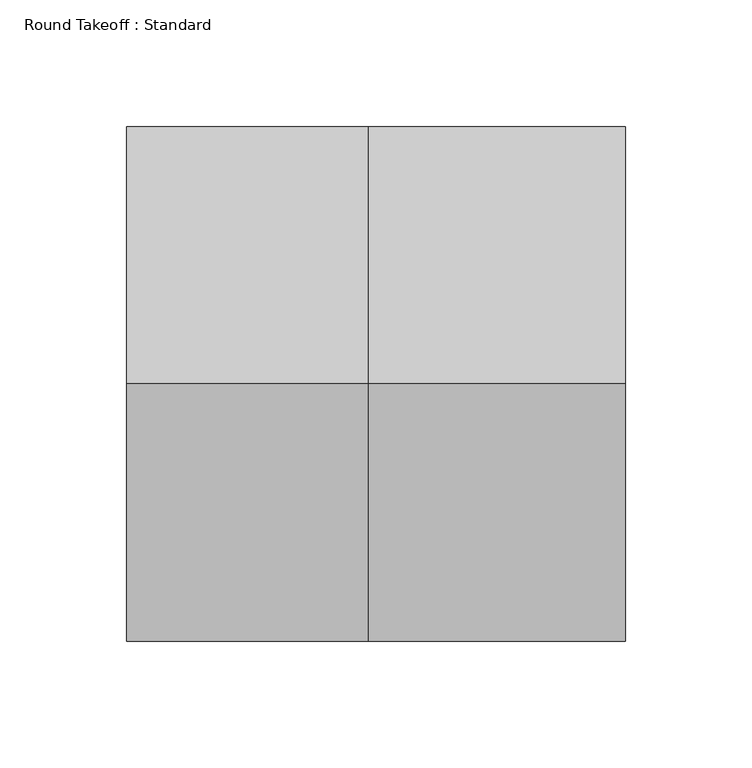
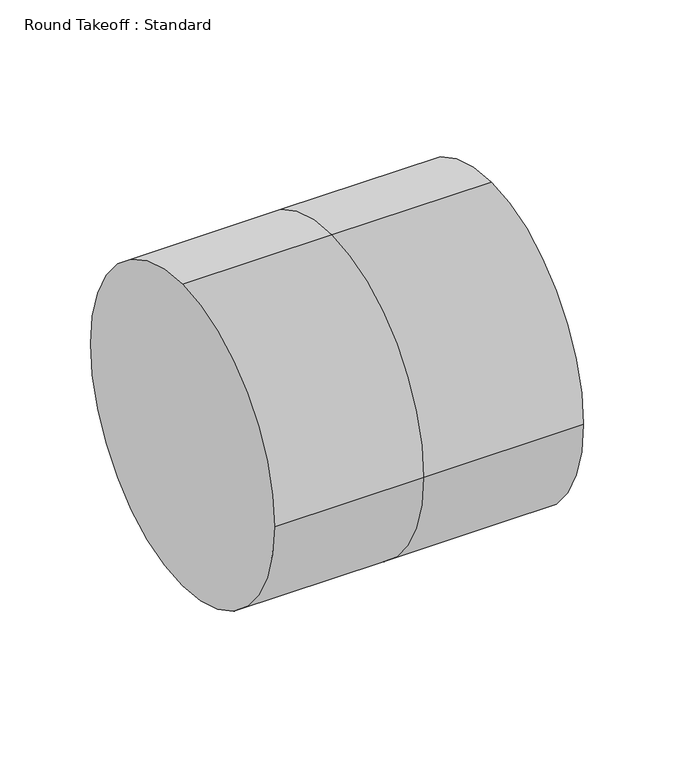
"""IFC4 building model written with IfcOpenShell, lengths in millimetres: duct fitting geometry, Round Takeoff : Standard."""

from ifc_helpers import new_model, si_unit, frame, origin, place, context, project, spatial, circle_curve, source, transform, mapped, element, save
from ifc_brep_helpers import plane_surface, cylinder_surface, advanced_brep


def round_takeoff_standard_aff246af(model_context):
    return source(origin(), model_context, "Body", "AdvancedBrep", [
        advanced_brep(
        [(101.6, 0.0, 101.6), (101.6, -101.6, 0.0), (101.6, 0.0, -101.6), (101.6, 101.6, 0.0), (0.0, 0.0, 101.6), (0.0, -101.6, 0.0), (0.0, 0.0, -101.6), (0.0, 101.6, 0.0), (-95.504, 0.0, 101.6), (-95.504, 101.6, 0.0), (-95.504, 0.0, -101.6), (-95.504, -101.6, 0.0)],
        [
            (0, 1, circle_curve(frame((101.6, 0.0, 0.0), z_axis=(1.0, 0.0, 0.0), x_axis=(0.0, -1.0, 0.0)), 101.6)),
            (1, 2, circle_curve(frame((101.6, 0.0, 0.0), z_axis=(1.0, 0.0, 0.0), x_axis=(0.0, -1.0, 0.0)), 101.6)),
            (2, 3, circle_curve(frame((101.6, 0.0, 0.0), z_axis=(1.0, 0.0, 0.0), x_axis=(0.0, -1.0, 0.0)), 101.6)),
            (3, 0, circle_curve(frame((101.6, 0.0, 0.0), z_axis=(1.0, 0.0, 0.0), x_axis=(0.0, -1.0, 0.0)), 101.6)),
            (0, 4),
            (4, 5, circle_curve(frame((0.0, 0.0, 0.0), z_axis=(1.0, 0.0, 0.0), x_axis=(0.0, -1.0, 0.0)), 101.6)),
            (5, 1),
            (5, 6, circle_curve(frame((0.0, 0.0, 0.0), z_axis=(1.0, 0.0, 0.0), x_axis=(0.0, -1.0, 0.0)), 101.6)),
            (6, 2),
            (6, 7, circle_curve(frame((0.0, 0.0, 0.0), z_axis=(1.0, 0.0, 0.0), x_axis=(0.0, -1.0, 0.0)), 101.6)),
            (7, 3),
            (7, 4, circle_curve(frame((0.0, 0.0, 0.0), z_axis=(1.0, 0.0, 0.0), x_axis=(0.0, -1.0, 0.0)), 101.6)),
            (8, 9, circle_curve(frame((-95.504, 0.0, 0.0), z_axis=(-1.0, 0.0, 0.0), x_axis=(0.0, -1.0, 0.0)), 101.6)),
            (9, 10, circle_curve(frame((-95.504, 0.0, 0.0), z_axis=(-1.0, 0.0, 0.0), x_axis=(0.0, -1.0, 0.0)), 101.6)),
            (10, 11, circle_curve(frame((-95.504, 0.0, 0.0), z_axis=(-1.0, 0.0, 0.0), x_axis=(0.0, -1.0, 0.0)), 101.6)),
            (11, 8, circle_curve(frame((-95.504, 0.0, 0.0), z_axis=(-1.0, 0.0, 0.0), x_axis=(0.0, -1.0, 0.0)), 101.6)),
            (11, 5),
            (4, 8),
            (10, 6),
            (9, 7),
        ],
        [
            plane_surface(frame((101.6, 0.0, 0.0), z_axis=(1.0, 0.0, 0.0), x_axis=(0.0, 0.0, 1.0))),
            cylinder_surface(frame((0.0, 0.0, 0.0), z_axis=(-1.0, 0.0, 0.0), x_axis=(0.0, -1.0, 0.0)), 101.6),
            plane_surface(frame((-95.504, 0.0, 0.0), z_axis=(-1.0, 0.0, 0.0), x_axis=(0.0, 0.0, 1.0))),
            cylinder_surface(frame((-95.504, 0.0, 0.0), z_axis=(-1.0, 0.0, 0.0), x_axis=(0.0, -1.0, 0.0)), 101.6),
        ],
        [
            (0, [[1, 2, 3, 4]]),
            (1, [[5, 6, 7, -1]]),
            (1, [[-7, 8, 9, -2]]),
            (1, [[-9, 10, 11, -3]]),
            (1, [[-11, 12, -5, -4]]),
            (2, [[13, 14, 15, 16]]),
            (3, [[17, -6, 18, -16]]),
            (3, [[19, -8, -17, -15]]),
            (3, [[20, -10, -19, -14]]),
            (3, [[-18, -12, -20, -13]]),
        ],
    ),
    ])


if __name__ == "__main__":
    model = new_model("IFC4")
    model_context = context("Model", 3, world=origin())
    ifc_project = project(units=[si_unit("LENGTHUNIT", "METRE", prefix="MILLI")], contexts=[model_context])
    site = spatial("IfcSite", under=ifc_project)
    building = spatial("IfcBuilding", under=site)
    placement = place(None, origin())
    round_takeoff_standard_shape = round_takeoff_standard_aff246af(model_context)
    element("IfcDuctFitting", 1, ObjectType="Round Takeoff : Standard", at=placement, inside=building, context=model_context, shape_type="MappedRepresentation", body=[
        mapped(round_takeoff_standard_shape, transform((0.0, 0.0, 0.0), x_axis=(1.0, 0.0, 0.0), y_axis=(0.0, 1.0, 0.0), z_axis=(0.0, 0.0, 1.0))),
    ])
    save(model, "model.ifc")
